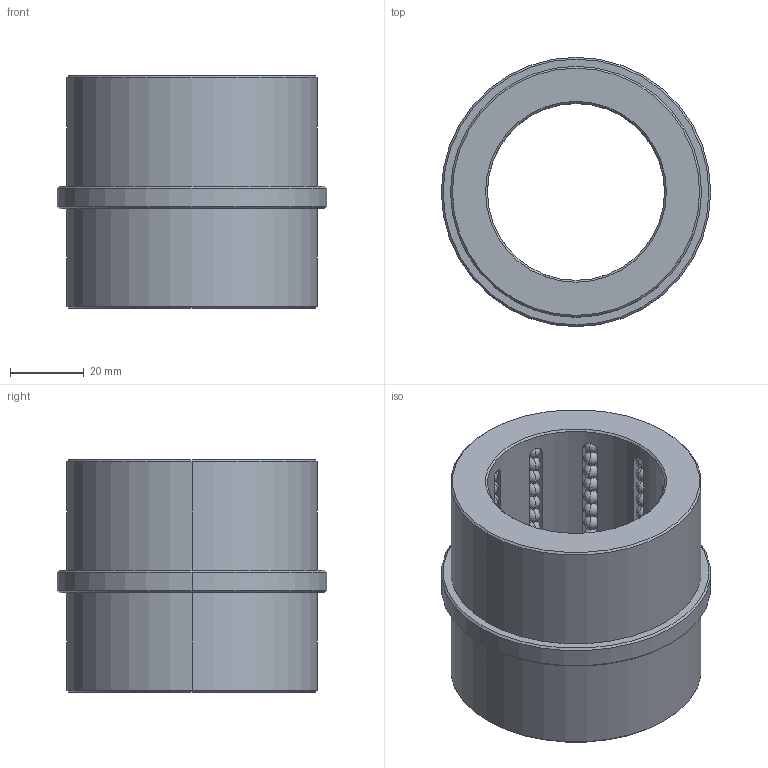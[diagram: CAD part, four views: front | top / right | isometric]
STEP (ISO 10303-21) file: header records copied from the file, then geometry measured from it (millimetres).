
FILE_DESCRIPTION((''),'2;1');
FILE_NAME('B8454827','2018-01-24T',('MANU'),(''),'PRO/ENGINEER BY PARAMETRIC TECHNOLOGY CORPORATION, 2012130','PRO/ENGINEER BY PARAMETRIC TECHNOLOGY CORPORATION, 2012130','');
FILE_SCHEMA(('CONFIG_CONTROL_DESIGN'));
Length unit declared in the file: millimetre
Products named in the file (1): B8454827
Bounding box: 73 x 73 x 63 mm (x, y, z)
Volume: 113927 mm3; surface area: 38489.4 mm2
Topology: 131 solids, 131 shells, 334 faces, 954 edges, 372 vertices
Faces by surface type: sphere 260, plane 34, cylinder 28, cone 12
Entity records: 7452 total; most frequent: CARTESIAN_POINT 1548, DIRECTION 1386, ORIENTED_EDGE 868, AXIS2_PLACEMENT_3D 642, EDGE_CURVE 434, VERTEX_POINT 372, EDGE_LOOP 346, FACE_OUTER_BOUND 334
